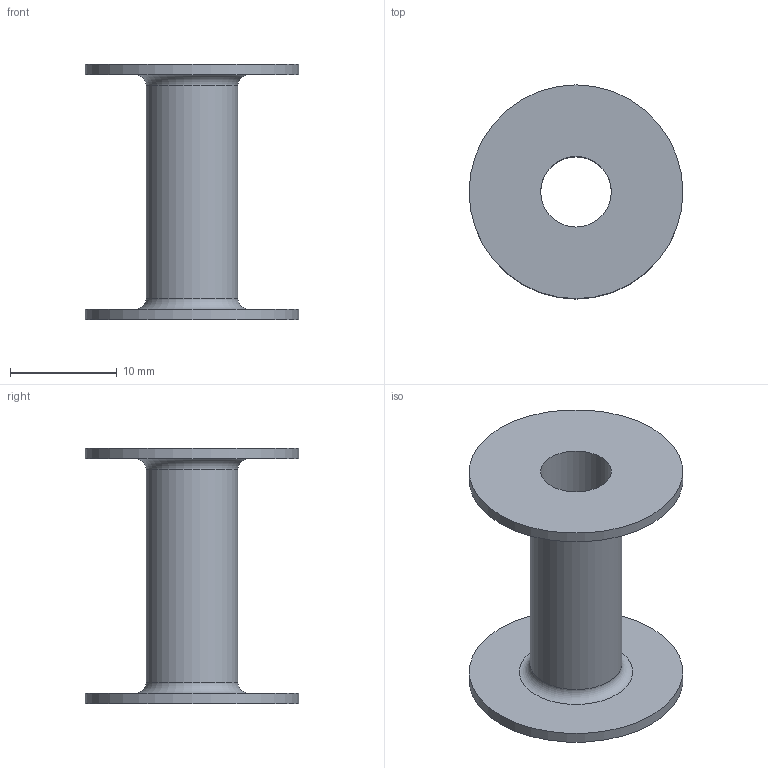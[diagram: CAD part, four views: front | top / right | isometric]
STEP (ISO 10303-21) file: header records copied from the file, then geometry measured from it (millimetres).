
FILE_DESCRIPTION(('FreeCAD Model'),'2;1');
FILE_NAME('Open CASCADE Shape Model','2026-10-15T11:35:12',(''),(''), 'Open CASCADE STEP processor 7.8','FreeCAD','Unknown');
FILE_SCHEMA(('AUTOMOTIVE_DESIGN { 1 0 10303 214 1 1 1 1 }'));
Length unit declared in the file: millimetre
Products named in the file (1): Revolve
Bounding box: 20 x 20 x 23.95 mm (x, y, z)
Volume: 1096.1 mm3; surface area: 2264.8 mm2
Topology: 1 solids, 1 shells, 10 faces, 16 edges, 10 vertices
Faces by surface type: plane 4, cylinder 4, torus 2
Full cylindrical faces by diameter (mm): 6.6 x1, 8.6 x1, 20 x2
Entity records: 262 total; most frequent: DIRECTION 50, CARTESIAN_POINT 37, ORIENTED_EDGE 32, AXIS2_PLACEMENT_3D 23, EDGE_CURVE 16, FACE_BOUND 14, EDGE_LOOP 14, CIRCLE 12
